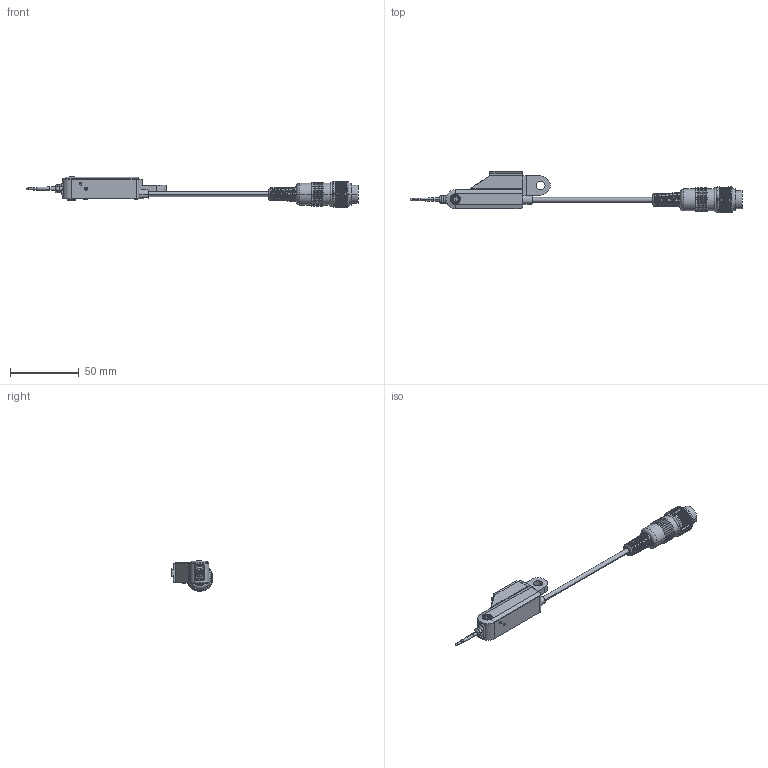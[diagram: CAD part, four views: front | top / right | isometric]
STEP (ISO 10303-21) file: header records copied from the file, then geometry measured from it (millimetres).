
FILE_DESCRIPTION(('Creo Elements/Direct Modeling STEP Export'),'2;1');
FILE_NAME('519-327.stp','2017-08-21T18:42:55',(''),(''),'Creo Elements/Direct Modeling STEP processor for AP214 (Solid Model)','Creo Elements/Direct Modeling 18.1C 24-Feb-2013 (C) Parametric Technology GmbH','');
FILE_SCHEMA(('AUTOMOTIVE_DESIGN { 1 0 10303 214 1 1 1 1 }'));
Products named in the file (1): 519-327
Bounding box: 242.3 x 30.5 x 22.11 mm (x, y, z)
Volume: 30941.7 mm3; surface area: 12507 mm2
Topology: 1 solids, 1 shells, 1868 faces, 4807 edges, 3061 vertices
Faces by surface type: cylinder 782, plane 695, bspline 176, torus 112, cone 83, sphere 20
Entity records: 109479 total; most frequent: CARTESIAN_POINT 53707, ORIENTED_EDGE 9610, DIRECTION 7817, EDGE_CURVE 4805, VERTEX_POINT 3061, AXIS2_PLACEMENT_3D 2892, VECTOR 2033, LINE 2033
